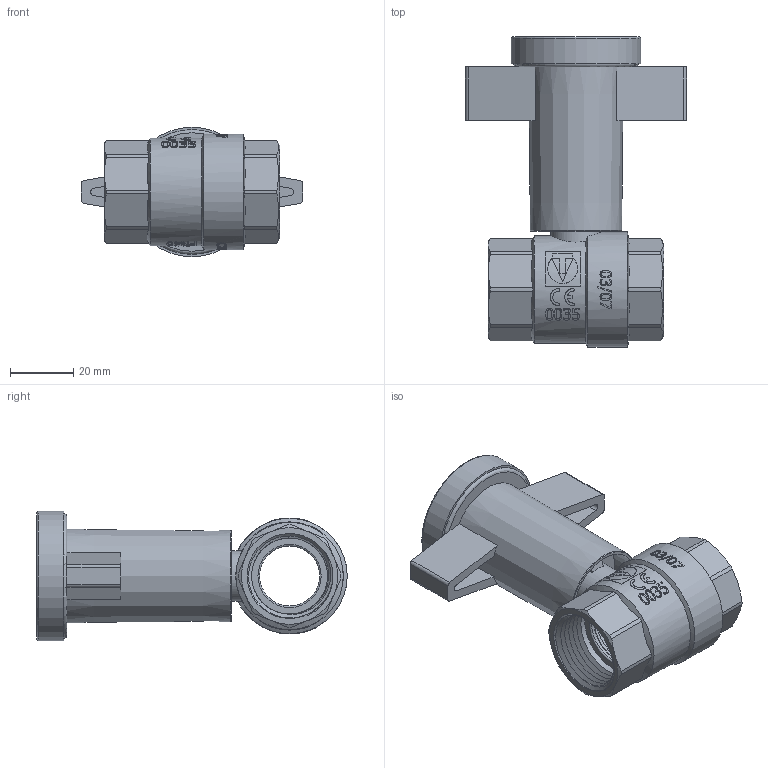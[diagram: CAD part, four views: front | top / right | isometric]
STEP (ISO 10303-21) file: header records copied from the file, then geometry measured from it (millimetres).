
FILE_DESCRIPTION(/* description */ (''),/* implementation_level */ '2;1');
FILE_NAME(/* name */ 'E:\Артём\00000\Работа удаленка\CD\VT.808.N.05_1.stp',/* time_stamp */ '2020-05-12T17:58:26+03:00',/* author */ ('BeN_GaN'),/* organization */ (''),/* preprocessor_version */ 'ST-DEVELOPER v18',/* originating_system */ 'Autodesk Inventor 2020',/* authorisation */ '');
FILE_SCHEMA (('AUTOMOTIVE_DESIGN { 1 0 10303 214 3 1 1 }'));
Length unit declared in the file: millimetre
Products named in the file (1): VT.808.N.05_1
Bounding box: 69.99 x 98.27 x 41 mm (x, y, z)
Volume: 42562.3 mm3; surface area: 37852.7 mm2
Topology: 2 solids, 5 shells, 1152 faces, 3000 edges, 2007 vertices
Faces by surface type: plane 662, bspline 315, cylinder 140, cone 27, torus 8
Full cylindrical faces by diameter (mm): 1.006 x1, 1.5 x1, 3.5 x1, 4.5 x1, 5 x1, 5.4 x1, 7.967 x1, 8.3 x1, 9 x1, 10.5 x1, 10.75 x1, 16 x2, 19 x2, 20.966 x1, 22.979 x2, 24.1 x6, 24.153 x1, 26 x2, 27.005 x1, 27.5 x5, 27.7 x5, 28.43 x1, 31.5 x1, 34 x1, 36.5 x1, 37.48 x1, 37.5 x1, 39.5 x1, 39.52 x1, 41 x1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
Entity records: 46773 total; most frequent: CARTESIAN_POINT 19167, ORIENTED_EDGE 6002, DIRECTION 4394, EDGE_CURVE 3001, VERTEX_POINT 2008, LINE 1756, VECTOR 1756, AXIS2_PLACEMENT_3D 1319
